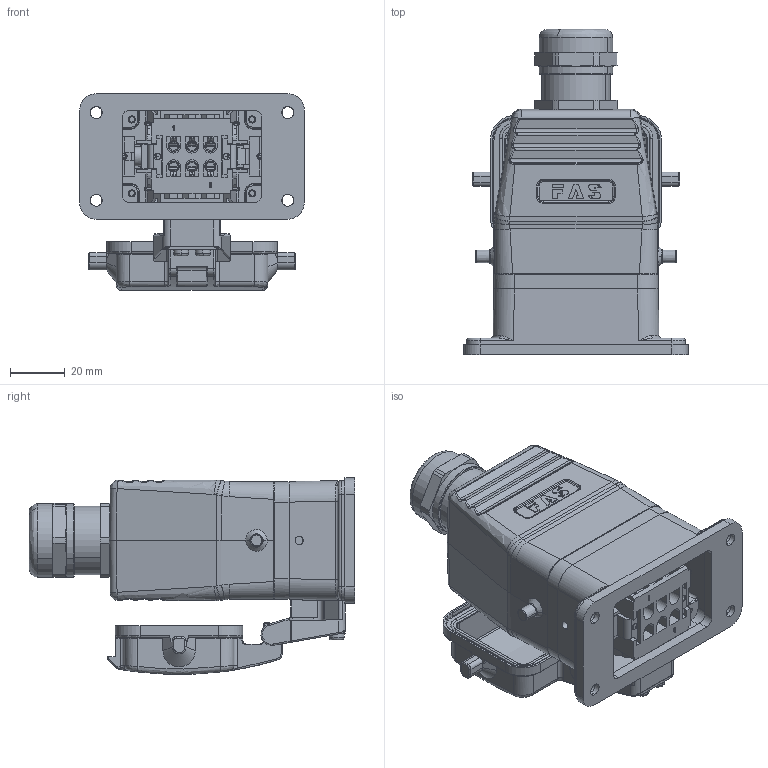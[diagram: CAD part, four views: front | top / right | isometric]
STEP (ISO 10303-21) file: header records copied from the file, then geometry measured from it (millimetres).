
FILE_DESCRIPTION (( 'STEP AP214' ), '1' );
FILE_NAME ('09006106120M HE、6针、开孔带盖底座、顶出M20套件、金属接头.STEP', '2024-04-26T03:02:07', ( 'L' ), ( '' ), 'SwSTEP 2.0', 'SolidWorks 2019', '' );
FILE_SCHEMA (( 'AUTOMOTIVE_DESIGN' ));
Length unit declared in the file: millimetre
Products named in the file (14): 09006106120M HE、6针、开孔带盖底座、顶出M20套件、金属接头; H6B-TG-M20.step; HE-006-F.stp; FAS-20-M.step; 0000061120.STEP; prt0001.STEP; m00607-1.STEP; H6B-AD.STEP; baohugailuosi.STEP; baohugaitanpian.STEP; b-xl-t-gudingjian.STEP; chaxiao.STEP; HE-006-M.stp; h6bmifengdian.STEP
Assembly tree (14 placements, depth 3):
  09006106120M HE、6针、开孔带盖底座、顶出M20套件、金属接头
    HE-006-F.stp
    HE-006-M.stp
    H6B-TG-M20.step
    H6B-AD.STEP
      prt0001.STEP
      chaxiao.STEP
      b-xl-t-gudingjian.STEP
      0000061120.STEP
      baohugaitanpian.STEP
      baohugailuosi.STEP  x2
      m00607-1.STEP
      h6bmifengdian.STEP
    FAS-20-M.step
Bounding box: 82 x 118.86 x 71.73 mm (x, y, z)
Volume: 152889.2 mm3; surface area: 100614.3 mm2
Topology: 16 solids, 22 shells, 3971 faces, 10401 edges, 6573 vertices
Faces by surface type: plane 1746, cylinder 1093, bspline 766, cone 239, torus 97, sphere 30
Entity records: 282578 total; most frequent: CARTESIAN_POINT 181528, ORIENTED_EDGE 19984, DIRECTION 16113, EDGE_CURVE 10008, VERTEX_POINT 6344, LINE 5507, VECTOR 5507, AXIS2_PLACEMENT_3D 5303
